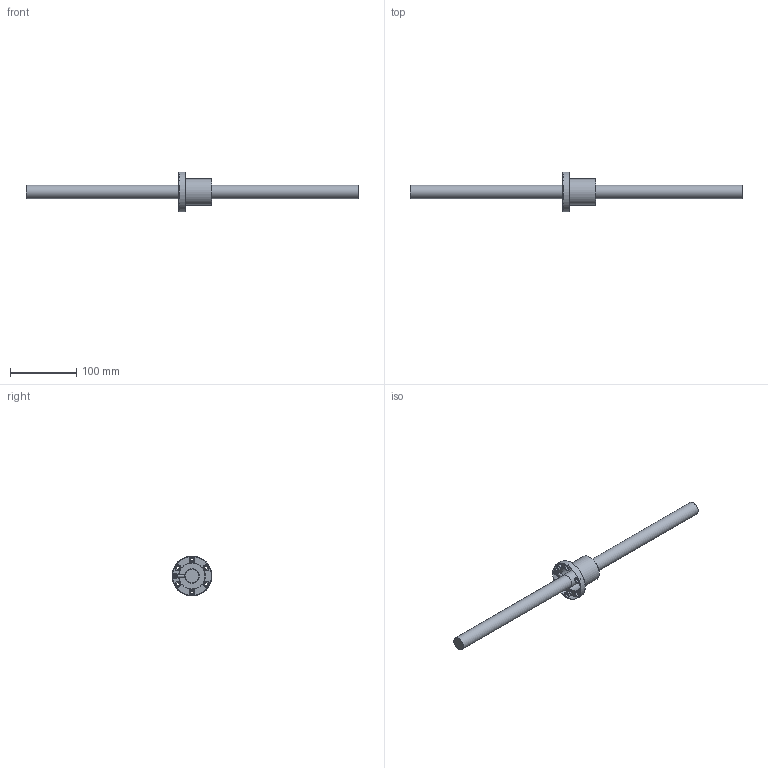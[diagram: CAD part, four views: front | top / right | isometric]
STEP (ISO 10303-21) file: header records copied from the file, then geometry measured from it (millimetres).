
FILE_DESCRIPTION (( 'STEP AP203' ), '1' );
FILE_NAME ('SFV02004N-4.8.step', '2024-05-20T03:37:37', ( '' ), ( '' ), 'SwSTEP 2.0', 'SolidWorks 2022', '' );
FILE_SCHEMA (( 'CONFIG_CONTROL_DESIGN' ));
Length unit declared in the file: millimetre
Products named in the file (1): SFV02004N-4.8
Bounding box: 500 x 60 x 60 mm (x, y, z)
Volume: 215046.3 mm3; surface area: 48314.4 mm2
Topology: 2 solids, 2 shells, 57 faces, 138 edges, 86 vertices
Faces by surface type: cylinder 24, cone 13, plane 12, bspline 5, torus 3
Full cylindrical faces by diameter (mm): 4 x1, 4.5 x6, 5 x6, 8 x6, 20 x1, 21.6 x1, 40 x1, 60 x1
Entity records: 2964 total; most frequent: CARTESIAN_POINT 1943, DIRECTION 206, ORIENTED_EDGE 136, EDGE_LOOP 102, AXIS2_PLACEMENT_3D 101, FACE_OUTER_BOUND 72, EDGE_CURVE 68, VERTEX_POINT 58
